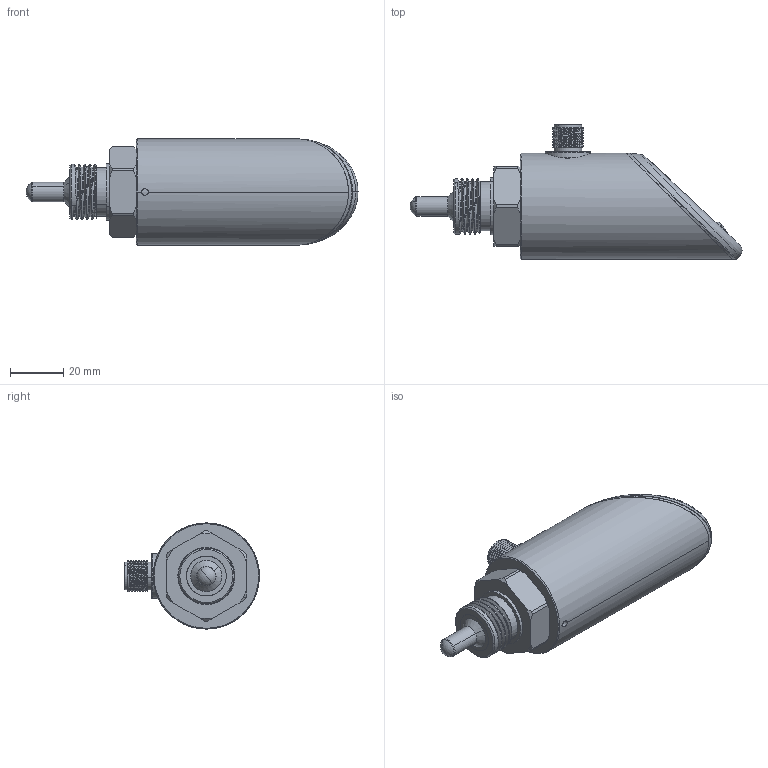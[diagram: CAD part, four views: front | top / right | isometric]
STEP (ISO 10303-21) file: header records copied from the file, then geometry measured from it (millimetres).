
FILE_DESCRIPTION (( 'STEP AP214' ), '1' );
FILE_NAME ('TBH-G1_2E-LI6D-SC-stp.STEP', '2024-07-17T01:14:58', ( '' ), ( '' ), 'SwSTEP 2.0', 'SolidWorks 2023', '' );
FILE_SCHEMA (( 'AUTOMOTIVE_DESIGN' ));
Length unit declared in the file: millimetre
Products named in the file (10): 101 - 马蹄部分; 01 - 新马蹄; 附件1 新马蹄面板模具; 03 - M12盘装插座; 09 - M12针套（5针）; 04 - G1_2 分体探头（长度16.5）; 103 - G1_2探头; 10 - 数码管; TBH-G1_2E-LI6D-SC-stp; 08 - 新马蹄外螺纹探杆过渡件
Assembly tree (9 placements, depth 3):
  TBH-G1_2E-LI6D-SC-stp
    101 - 马蹄部分
      附件1 新马蹄面板模具
      10 - 数码管
      01 - 新马蹄
      03 - M12盘装插座
      09 - M12针套（5针）
    103 - G1_2探头
      08 - 新马蹄外螺纹探杆过渡件
      04 - G1_2 分体探头（长度16.5）
Bounding box: 125.08 x 50.8 x 40 mm (x, y, z)
Volume: 38851.6 mm3; surface area: 41759.3 mm2
Topology: 30 solids, 30 shells, 1526 faces, 3890 edges, 2569 vertices
Faces by surface type: plane 984, bspline 260, cylinder 217, cone 31, torus 26, sphere 8
Entity records: 66822 total; most frequent: CARTESIAN_POINT 31172, ORIENTED_EDGE 7768, DIRECTION 6199, EDGE_CURVE 3884, VECTOR 2743, LINE 2743, VERTEX_POINT 2565, AXIS2_PLACEMENT_3D 1728
